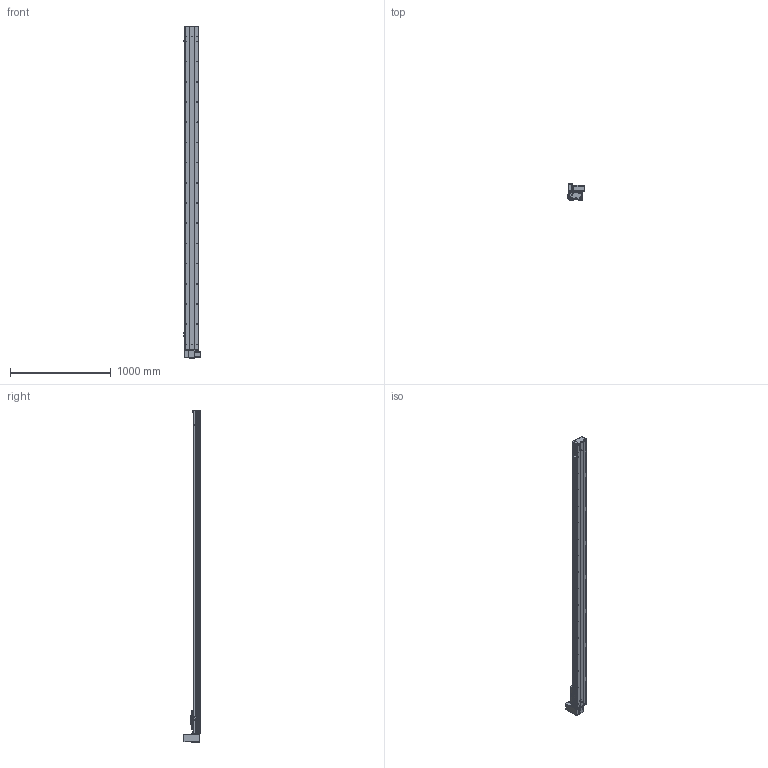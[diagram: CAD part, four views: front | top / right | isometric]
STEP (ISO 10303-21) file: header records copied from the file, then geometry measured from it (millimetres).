
FILE_DESCRIPTION (( 'STEP AP203' ), '1' );
FILE_NAME ('Y135CB-D90-S2900-UR-P400W.STEP', '2020-02-18T06:47:45', ( '微软用户' ), ( '微软中国' ), 'SwSTEP 2.0', 'SolidWorks 2017', '' );
FILE_SCHEMA (( 'CONFIG_CONTROL_DESIGN' ));
Length unit declared in the file: millimetre
Products named in the file (18): 135CB---遴掛极.-; Y100-135俋离換覜ん--; 35CB---喘謫眊楊擘啣; Y135C-陔俋离換覜結え-; 0B-埴倛裔啣; 5C--俋欶; 0B-源倛裔啣; C-雄赽釱--; 0B-萇儂楊擘啣; Y10B--々湍喘謫眊--666; san松下电机400不带刹车----; Y10B-耜蚾蟀諉啣----; 5CB --掛极耜裔啣-; 00B-俋欶BM--; C-詩湍揤踡え-陔; Y135CB-耜裔; Y135CB-D90-S2900-UR-P400W; 135CB--詩湍-CE
Assembly tree (21 placements, depth 2):
  Y135CB-D90-S2900-UR-P400W
    Y135CB-耜裔
    135CB---遴掛极.-
    35CB---喘謫眊楊擘啣
    0B-埴倛裔啣
    0B-源倛裔啣
    0B-萇儂楊擘啣
    san松下电机400不带刹车----
    5CB --掛极耜裔啣-  x2
    C-詩湍揤踡え-陔  x2
    135CB--詩湍-CE
    Y100-135俋离換覜ん--  x3
    Y135C-陔俋离換覜結え-
    5C--俋欶
    C-雄赽釱--
    Y10B--々湍喘謫眊--666
    Y10B-耜蚾蟀諉啣----
    00B-俋欶BM--
Bounding box: 167.5 x 158.7 x 3288 mm (x, y, z)
Volume: 9320470.2 mm3; surface area: 3697064.1 mm2
Topology: 21 solids, 21 shells, 985 faces, 2707 edges, 1794 vertices
Faces by surface type: cylinder 513, plane 456, cone 16
Entity records: 31369 total; most frequent: CARTESIAN_POINT 5252, DIRECTION 5215, ORIENTED_EDGE 4890, EDGE_CURVE 2445, AXIS2_PLACEMENT_3D 1917, VERTEX_POINT 1622, LINE 1381, VECTOR 1381
